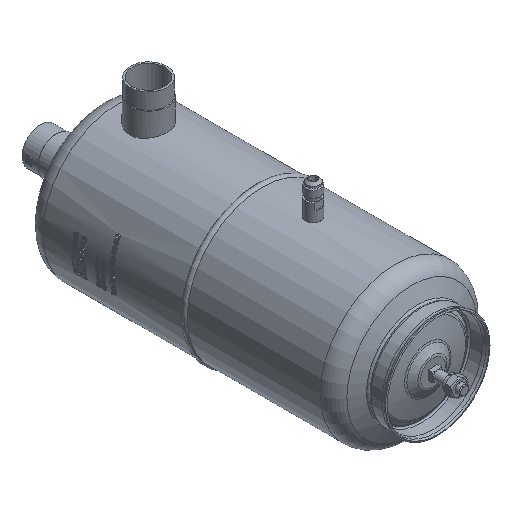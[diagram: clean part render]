
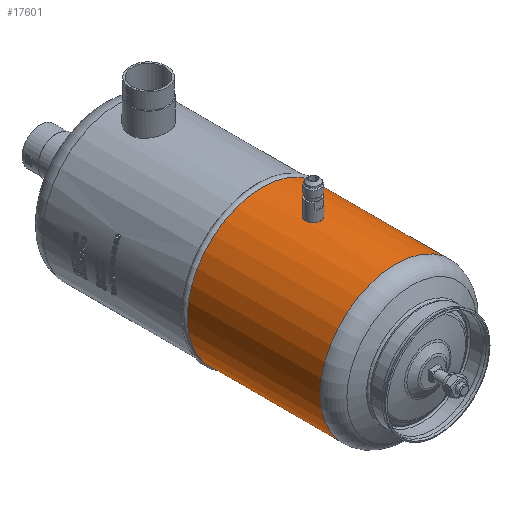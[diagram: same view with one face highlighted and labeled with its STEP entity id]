
A CAD part, isometric view. The second image highlights one B-rep face of the part: STEP entity #17601.
In plain terms, the highlighted cylindrical face has radius 80 mm (diameter 160 mm), a full revolution.
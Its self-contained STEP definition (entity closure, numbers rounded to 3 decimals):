
#413=B_SPLINE_CURVE_WITH_KNOTS('',3,(#24484,#24485,#24486,#24487,#24488,
#24489,#24490,#24491,#24492,#24493,#24494,#24495,#24496,#24497,#24498,#24499,
#24500,#24501),.UNSPECIFIED.,.F.,.F.,(4,2,2,2,2,2,2,2,4),(1.206,
1.508,1.809,2.111,2.413,2.714,
3.016,3.317,3.619),.UNSPECIFIED.);
#414=B_SPLINE_CURVE_WITH_KNOTS('',3,(#24502,#24503,#24504,#24505,#24506,
#24507,#24508,#24509,#24510,#24511,#24512,#24513,#24514,#24515,#24516,#24517,
#24518,#24519,#24520),.UNSPECIFIED.,.F.,.F.,(4,2,2,2,3,2,2,2,4),(3.619,
3.92,4.222,4.523,4.825,5.127,
5.428,5.73,6.031),.UNSPECIFIED.);
#1553=CYLINDRICAL_SURFACE('',#18723,80.);
#4745=FACE_BOUND('',#5994,.T.);
#4746=FACE_BOUND('',#5995,.T.);
#4904=FACE_OUTER_BOUND('',#5993,.T.);
#5993=EDGE_LOOP('',(#12242));
#5994=EDGE_LOOP('',(#12243,#12244));
#5995=EDGE_LOOP('',(#12245));
#7133=CIRCLE('',#18722,80.);
#7134=CIRCLE('',#18724,80.);
#7524=VERTEX_POINT('',#24482);
#7525=VERTEX_POINT('',#24483);
#7533=VERTEX_POINT('',#24546);
#7534=VERTEX_POINT('',#24549);
#9388=EDGE_CURVE('',#7524,#7525,#413,.T.);
#9389=EDGE_CURVE('',#7525,#7524,#414,.T.);
#9402=EDGE_CURVE('',#7533,#7533,#7133,.T.);
#9403=EDGE_CURVE('',#7534,#7534,#7134,.T.);
#12242=ORIENTED_EDGE('',*,*,#9402,.F.);
#12243=ORIENTED_EDGE('',*,*,#9389,.F.);
#12244=ORIENTED_EDGE('',*,*,#9388,.F.);
#12245=ORIENTED_EDGE('',*,*,#9403,.T.);
#17601=ADVANCED_FACE('',(#4904,#4745,#4746),#1553,.T.);
#18722=AXIS2_PLACEMENT_3D('',#24547,#20294,#20295);
#18723=AXIS2_PLACEMENT_3D('',#24548,#20296,#20297);
#18724=AXIS2_PLACEMENT_3D('',#24550,#20298,#20299);
#20294=DIRECTION('center_axis',(0.,-1.,0.));
#20295=DIRECTION('ref_axis',(0.,0.,
1.));
#20296=DIRECTION('center_axis',(0.,-1.,0.));
#20297=DIRECTION('ref_axis',(0.,0.,
1.));
#20298=DIRECTION('center_axis',(0.,-1.,0.));
#20299=DIRECTION('ref_axis',(0.,0.,
1.));
#24482=CARTESIAN_POINT('',(0.,-65.,80.));
#24483=CARTESIAN_POINT('',(0.,-49.,80.));
#24484=CARTESIAN_POINT('Ctrl Pts',(0.,-65.,
80.));
#24485=CARTESIAN_POINT('Ctrl Pts',(1.005,-65.,80.));
#24486=CARTESIAN_POINT('Ctrl Pts',(2.077,-64.799,79.979));
#24487=CARTESIAN_POINT('Ctrl Pts',(4.048,-63.982,79.904));
#24488=CARTESIAN_POINT('Ctrl Pts',(4.947,-63.367,79.85));
#24489=CARTESIAN_POINT('Ctrl Pts',(6.367,-61.947,79.749));
#24490=CARTESIAN_POINT('Ctrl Pts',(6.982,-61.048,79.696));
#24491=CARTESIAN_POINT('Ctrl Pts',(7.799,-59.077,79.62));
#24492=CARTESIAN_POINT('Ctrl Pts',(8.,-58.005,79.599));
#24493=CARTESIAN_POINT('Ctrl Pts',(8.,-55.995,79.599));
#24494=CARTESIAN_POINT('Ctrl Pts',(7.799,-54.923,79.62));
#24495=CARTESIAN_POINT('Ctrl Pts',(6.982,-52.952,79.696));
#24496=CARTESIAN_POINT('Ctrl Pts',(6.367,-52.053,79.749));
#24497=CARTESIAN_POINT('Ctrl Pts',(4.947,-50.633,79.85));
#24498=CARTESIAN_POINT('Ctrl Pts',(4.048,-50.018,79.904));
#24499=CARTESIAN_POINT('Ctrl Pts',(2.077,-49.201,79.979));
#24500=CARTESIAN_POINT('Ctrl Pts',(1.005,-49.,80.));
#24501=CARTESIAN_POINT('Ctrl Pts',(0.,-49.,
80.));
#24502=CARTESIAN_POINT('Ctrl Pts',(0.,-49.,
80.));
#24503=CARTESIAN_POINT('Ctrl Pts',(-1.005,-49.,
80.));
#24504=CARTESIAN_POINT('Ctrl Pts',(-2.077,-49.201,
79.979));
#24505=CARTESIAN_POINT('Ctrl Pts',(-4.048,-50.018,
79.904));
#24506=CARTESIAN_POINT('Ctrl Pts',(-4.947,-50.633,
79.85));
#24507=CARTESIAN_POINT('Ctrl Pts',(-6.367,-52.053,79.749));
#24508=CARTESIAN_POINT('Ctrl Pts',(-6.982,-52.952,
79.696));
#24509=CARTESIAN_POINT('Ctrl Pts',(-7.799,-54.923,
79.62));
#24510=CARTESIAN_POINT('Ctrl Pts',(-8.,-55.995,
79.599));
#24511=CARTESIAN_POINT('Ctrl Pts',(-8.,-57.,
79.599));
#24512=CARTESIAN_POINT('Ctrl Pts',(-8.,-58.005,
79.599));
#24513=CARTESIAN_POINT('Ctrl Pts',(-7.799,-59.077,
79.62));
#24514=CARTESIAN_POINT('Ctrl Pts',(-6.982,-61.048,
79.696));
#24515=CARTESIAN_POINT('Ctrl Pts',(-6.367,-61.947,
79.749));
#24516=CARTESIAN_POINT('Ctrl Pts',(-4.947,-63.367,
79.85));
#24517=CARTESIAN_POINT('Ctrl Pts',(-4.048,-63.982,
79.904));
#24518=CARTESIAN_POINT('Ctrl Pts',(-2.077,-64.799,
79.979));
#24519=CARTESIAN_POINT('Ctrl Pts',(-1.005,-65.,
80.));
#24520=CARTESIAN_POINT('Ctrl Pts',(0.,-65.,
80.));
#24546=CARTESIAN_POINT('',(0.,-144.442,80.));
#24547=CARTESIAN_POINT('Origin',(0.,-144.442,
0.));
#24548=CARTESIAN_POINT('Origin',(0.,-73.721,
0.));
#24549=CARTESIAN_POINT('',(0.,-3.,80.));
#24550=CARTESIAN_POINT('Origin',(0.,-3.,
0.));
